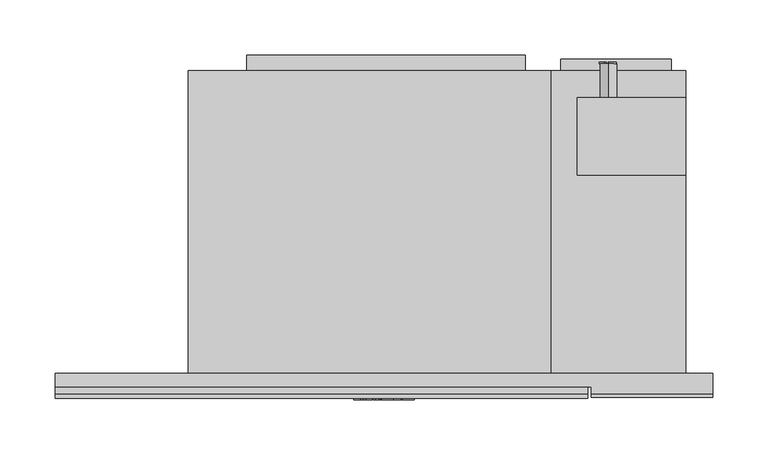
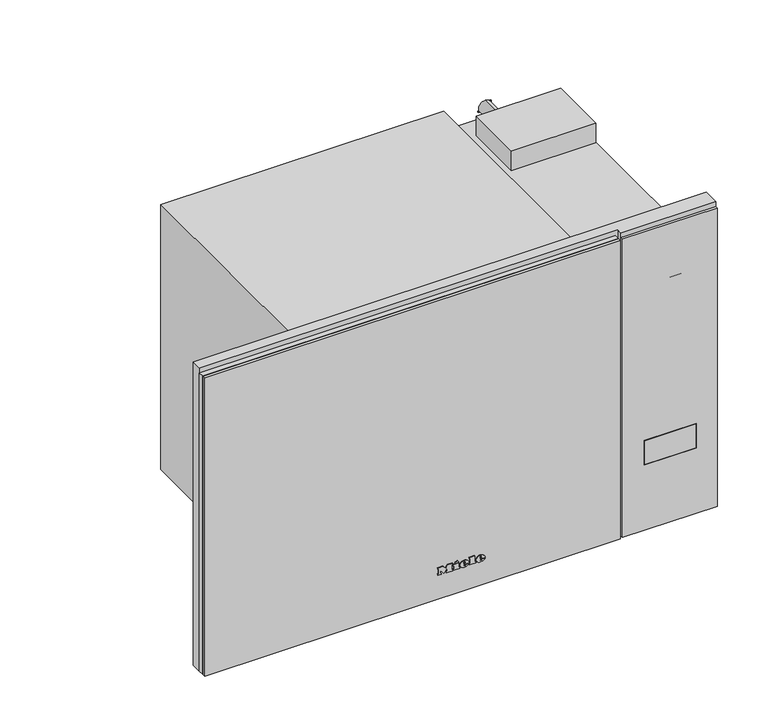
"""IFC4 building model written with IfcOpenShell, lengths in millimetres: proxy geometry, 11103460_D_M2234SC_OBSW : 24223420_D_11103460_M2234SC_OBSW."""

from ifc_helpers import new_model, si_unit, point, frame, frame_2d, origin, origin_with_axes, place, context, project, spatial, polyline, circle_curve, ellipse_curve, trimmed, segment, composite_curve, outline, extrude, faceted_brep, source, transform, mapped, element, save
from ifc_brep_helpers import plane_surface, cylinder_surface, revolved_surface, extruded_surface, advanced_brep


def specialty_equipment_cf71ed80(model_context):
    return source(origin(), model_context, "Body", "SolidModel", [
        advanced_brep(
        [(21.28, -24.0, 26.633), (21.28, -24.0, 27.542), (27.301, -24.0, 27.542), (16.825, -24.0, 27.542), (19.3, -24.0, 24.5), (27.148, -24.0, 26.633), (24.43, -24.0, 26.633), (22.288, -24.0, 25.625), (21.28, -24.0, 28.694), (21.28, -24.0, 29.675), (22.819, -24.0, 29.675), (22.819, -24.0, 28.694), (21.28, -23.0, 26.633), (22.288, -23.0, 25.625), (24.43, -23.0, 26.633), (27.148, -23.0, 26.633), (19.3, -23.0, 24.5), (16.825, -23.0, 27.542), (27.301, -23.0, 27.542), (21.28, -23.0, 27.542), (21.28, -23.0, 28.694), (22.819, -23.0, 28.694), (22.819, -23.0, 29.675), (21.28, -23.0, 29.675)],
        [
            (0, 1),
            (1, 2),
            (2, 3, ellipse_curve(frame((22.063, -24.0, 27.542), z_axis=(0.0, -1.0, 0.0), x_axis=(-1.0, 0.0, 0.0)), 5.238, 4.329)),
            (3, 4, circle_curve(frame((20.3080491, -24.0, 27.848), z_axis=(0.0, -1.0, 0.0), x_axis=(0.0, 0.0, -1.0)), 3.4964649)),
            (4, 5, circle_curve(frame((21.9581428, -24.0, 30.224), z_axis=(0.0, -1.0, 0.0), x_axis=(0.0, 0.0, -1.0)), 6.3110933)),
            (5, 6),
            (6, 7, circle_curve(frame((22.7279412, -24.0, 27.47), z_axis=(0.0, 1.0, 0.0), x_axis=(0.0, 0.0, -1.0)), 1.896727)),
            (7, 0, circle_curve(frame((22.288, -24.0, 26.633), z_axis=(0.0, 1.0, 0.0), x_axis=(0.0, 0.0, -1.0)), 1.008)),
            (8, 9),
            (9, 10, circle_curve(frame((22.0495, -24.0, 29.675), z_axis=(0.0, 1.0, 0.0), x_axis=(0.0, 0.0, -1.0)), 0.7695)),
            (10, 11),
            (11, 8),
            (12, 13, circle_curve(frame((22.288, -23.0, 26.633), z_axis=(0.0, -1.0, 0.0), x_axis=(0.0, 0.0, -1.0)), 1.008)),
            (13, 14, circle_curve(frame((22.7279412, -23.0, 27.47), z_axis=(0.0, -1.0, 0.0), x_axis=(0.0, 0.0, -1.0)), 1.896727)),
            (14, 15),
            (15, 16, circle_curve(frame((21.9581428, -23.0, 30.224), z_axis=(0.0, 1.0, 0.0), x_axis=(0.0, 0.0, -1.0)), 6.3110933)),
            (16, 17, circle_curve(frame((20.3080491, -23.0, 27.848), z_axis=(0.0, 1.0, 0.0), x_axis=(0.0, 0.0, -1.0)), 3.4964649)),
            (17, 18, ellipse_curve(frame((22.063, -23.0, 27.542), z_axis=(0.0, 1.0, 0.0), x_axis=(-1.0, 0.0, 0.0)), 5.238, 4.329)),
            (18, 19),
            (19, 12),
            (20, 21),
            (21, 22),
            (22, 23, circle_curve(frame((22.0495, -23.0, 29.675), z_axis=(0.0, -1.0, 0.0), x_axis=(0.0, 0.0, -1.0)), 0.7695)),
            (23, 20),
            (0, 12),
            (19, 1),
            (18, 2),
            (5, 15),
            (14, 6),
            (17, 3),
            (13, 7),
            (16, 4),
            (8, 20),
            (23, 9),
            (22, 10),
            (21, 11),
        ],
        [
            plane_surface(frame((21.28, -24.0, 27.542), z_axis=(0.0, -1.0, 0.0), x_axis=(0.0, 0.0, 1.0))),
            plane_surface(frame((21.28, -23.0, 27.542), z_axis=(0.0, 1.0, 0.0), x_axis=(0.0, 0.0, -1.0))),
            plane_surface(frame((21.28, -24.0, 26.633), z_axis=(1.0, 0.0, 0.0), x_axis=(0.0, 1.0, 0.0))),
            plane_surface(frame((21.28, -24.0, 27.542), z_axis=(0.0, 0.0, -1.0), x_axis=(0.0, 1.0, 0.0))),
            plane_surface(frame((27.148, -24.0, 26.633), z_axis=(0.0, 0.0, 1.0), x_axis=(0.0, 1.0, 0.0))),
            extruded_surface(trimmed(ellipse_curve(frame((22.063, -22.0, 27.542), z_axis=(0.0, -1.0, 0.0), x_axis=(-1.0, 0.0, 0.0)), 5.238, 4.329), [point((27.301, -22.0, 27.542))], [point((16.825, -22.0, 27.542))], True, "CARTESIAN"), (0.0, -1.0, 0.0), 1.0),
            revolved_surface(polyline([(22.7279412, -23.0, 25.573273), (22.7279412, -24.0, 25.573273)]), (22.7279412, -23.0, 27.47), (0.0, 1.0, 0.0)),
            revolved_surface(polyline([(22.288, -23.0, 25.625), (22.288, -24.0, 25.625)]), (22.288, -23.0, 26.633), (0.0, 1.0, 0.0)),
            cylinder_surface(frame((20.3080491, -23.0, 27.848), z_axis=(0.0, -1.0, 0.0), x_axis=(0.0, 0.0, -1.0)), 3.4964649),
            cylinder_surface(frame((21.9581428, -23.0, 30.224), z_axis=(0.0, -1.0, 0.0), x_axis=(0.0, 0.0, -1.0)), 6.3110933),
            plane_surface(frame((21.28, -24.0, 28.694), z_axis=(1.0, 0.0, 0.0), x_axis=(0.0, 1.0, 0.0))),
            revolved_surface(polyline([(22.0495, -23.0, 28.9055), (22.0495, -24.0, 28.9055)]), (22.0495, -23.0, 29.675), (0.0, 1.0, 0.0)),
            plane_surface(frame((22.819, -24.0, 29.675), z_axis=(-1.0, 0.0, 0.0), x_axis=(0.0, 1.0, 0.0))),
            plane_surface(frame((22.819, -24.0, 28.694), z_axis=(0.0, 0.0, 1.0), x_axis=(0.0, 1.0, 0.0))),
        ],
        [
            (0, [[1, 2, 3, 4, 5, 6, 7, 8], [9, 10, 11, 12]]),
            (1, [[13, 14, 15, 16, 17, 18, 19, 20], [21, 22, 23, 24]]),
            (2, [[-1, 25, -20, 26]]),
            (3, [[-2, -26, -19, 27]]),
            (4, [[-6, 28, -15, 29]]),
            (5, [[-3, -27, -18, 30]]),
            (6, [[-7, -29, -14, 31]]),
            (7, [[-8, -31, -13, -25]]),
            (8, [[-4, -30, -17, 32]]),
            (9, [[-5, -32, -16, -28]]),
            (10, [[-9, 33, -24, 34]]),
            (11, [[-10, -34, -23, 35]]),
            (12, [[-11, -35, -22, 36]]),
            (13, [[-12, -36, -21, -33]]),
        ],
    ),
        advanced_brep(
        [(2.497, -24.0, 26.633), (2.497, -24.0, 27.542), (8.518, -24.0, 27.542), (-1.958, -24.0, 27.542), (0.517, -24.0, 24.5), (8.365, -24.0, 26.633), (5.647, -24.0, 26.633), (3.505, -24.0, 25.625), (2.497, -24.0, 28.694), (2.497, -24.0, 29.675), (4.036, -24.0, 29.675), (4.036, -24.0, 28.694), (2.497, -23.0, 26.633), (3.505, -23.0, 25.625), (5.647, -23.0, 26.633), (8.365, -23.0, 26.633), (0.517, -23.0, 24.5), (-1.958, -23.0, 27.542), (8.518, -23.0, 27.542), (2.497, -23.0, 27.542), (2.497, -23.0, 28.694), (4.036, -23.0, 28.694), (4.036, -23.0, 29.675), (2.497, -23.0, 29.675)],
        [
            (0, 1),
            (1, 2),
            (2, 3, ellipse_curve(frame((3.28, -24.0, 27.542), z_axis=(0.0, -1.0, 0.0), x_axis=(-1.0, 0.0, 0.0)), 5.238, 4.329)),
            (3, 4, circle_curve(frame((1.5250491, -24.0, 27.848), z_axis=(0.0, -1.0, 0.0), x_axis=(0.0, 0.0, -1.0)), 3.4964649)),
            (4, 5, circle_curve(frame((3.1751428, -24.0, 30.224), z_axis=(0.0, -1.0, 0.0), x_axis=(0.0, 0.0, -1.0)), 6.3110933)),
            (5, 6),
            (6, 7, circle_curve(frame((3.9449412, -24.0, 27.47), z_axis=(0.0, 1.0, 0.0), x_axis=(0.0, 0.0, -1.0)), 1.896727)),
            (7, 0, circle_curve(frame((3.505, -24.0, 26.633), z_axis=(0.0, 1.0, 0.0), x_axis=(0.0, 0.0, -1.0)), 1.008)),
            (8, 9),
            (9, 10, circle_curve(frame((3.2665, -24.0, 29.675), z_axis=(0.0, 1.0, 0.0), x_axis=(0.0, 0.0, -1.0)), 0.7695)),
            (10, 11),
            (11, 8),
            (12, 13, circle_curve(frame((3.505, -23.0, 26.633), z_axis=(0.0, -1.0, 0.0), x_axis=(0.0, 0.0, -1.0)), 1.008)),
            (13, 14, circle_curve(frame((3.9449412, -23.0, 27.47), z_axis=(0.0, -1.0, 0.0), x_axis=(0.0, 0.0, -1.0)), 1.896727)),
            (14, 15),
            (15, 16, circle_curve(frame((3.1751428, -23.0, 30.224), z_axis=(0.0, 1.0, 0.0), x_axis=(0.0, 0.0, -1.0)), 6.3110933)),
            (16, 17, circle_curve(frame((1.5250491, -23.0, 27.848), z_axis=(0.0, 1.0, 0.0), x_axis=(0.0, 0.0, -1.0)), 3.4964649)),
            (17, 18, ellipse_curve(frame((3.28, -23.0, 27.542), z_axis=(0.0, 1.0, 0.0), x_axis=(-1.0, 0.0, 0.0)), 5.238, 4.329)),
            (18, 19),
            (19, 12),
            (20, 21),
            (21, 22),
            (22, 23, circle_curve(frame((3.2665, -23.0, 29.675), z_axis=(0.0, -1.0, 0.0), x_axis=(0.0, 0.0, -1.0)), 0.7695)),
            (23, 20),
            (0, 12),
            (19, 1),
            (18, 2),
            (5, 15),
            (14, 6),
            (17, 3),
            (13, 7),
            (16, 4),
            (8, 20),
            (23, 9),
            (22, 10),
            (21, 11),
        ],
        [
            plane_surface(frame((2.497, -24.0, 27.542), z_axis=(0.0, -1.0, 0.0), x_axis=(0.0, 0.0, 1.0))),
            plane_surface(frame((2.497, -23.0, 27.542), z_axis=(0.0, 1.0, 0.0), x_axis=(0.0, 0.0, -1.0))),
            plane_surface(frame((2.497, -24.0, 26.633), z_axis=(1.0, 0.0, 0.0), x_axis=(0.0, 1.0, 0.0))),
            plane_surface(frame((2.497, -24.0, 27.542), z_axis=(0.0, 0.0, -1.0), x_axis=(0.0, 1.0, 0.0))),
            plane_surface(frame((8.365, -24.0, 26.633), z_axis=(0.0, 0.0, 1.0), x_axis=(0.0, 1.0, 0.0))),
            extruded_surface(trimmed(ellipse_curve(frame((3.28, -22.0, 27.542), z_axis=(0.0, -1.0, 0.0), x_axis=(-1.0, 0.0, 0.0)), 5.238, 4.329), [point((8.518, -22.0, 27.542))], [point((-1.958, -22.0, 27.542))], True, "CARTESIAN"), (0.0, -1.0, 0.0), 1.0),
            revolved_surface(polyline([(3.9449412, -23.0, 25.573273), (3.9449412, -24.0, 25.573273)]), (3.9449412, -23.0, 27.47), (0.0, 1.0, 0.0)),
            revolved_surface(polyline([(3.505, -23.0, 25.625), (3.505, -24.0, 25.625)]), (3.505, -23.0, 26.633), (0.0, 1.0, 0.0)),
            cylinder_surface(frame((1.5250491, -23.0, 27.848), z_axis=(0.0, -1.0, 0.0), x_axis=(0.0, 0.0, -1.0)), 3.4964649),
            cylinder_surface(frame((3.1751428, -23.0, 30.224), z_axis=(0.0, -1.0, 0.0), x_axis=(0.0, 0.0, -1.0)), 6.3110933),
            plane_surface(frame((2.497, -24.0, 28.694), z_axis=(1.0, 0.0, 0.0), x_axis=(0.0, 1.0, 0.0))),
            revolved_surface(polyline([(3.2665, -23.0, 28.9055), (3.2665, -24.0, 28.9055)]), (3.2665, -23.0, 29.675), (0.0, 1.0, 0.0)),
            plane_surface(frame((4.036, -24.0, 29.675), z_axis=(-1.0, 0.0, 0.0), x_axis=(0.0, 1.0, 0.0))),
            plane_surface(frame((4.036, -24.0, 28.694), z_axis=(0.0, 0.0, 1.0), x_axis=(0.0, 1.0, 0.0))),
        ],
        [
            (0, [[1, 2, 3, 4, 5, 6, 7, 8], [9, 10, 11, 12]]),
            (1, [[13, 14, 15, 16, 17, 18, 19, 20], [21, 22, 23, 24]]),
            (2, [[-1, 25, -20, 26]]),
            (3, [[-2, -26, -19, 27]]),
            (4, [[-6, 28, -15, 29]]),
            (5, [[-3, -27, -18, 30]]),
            (6, [[-7, -29, -14, 31]]),
            (7, [[-8, -31, -13, -25]]),
            (8, [[-4, -30, -17, 32]]),
            (9, [[-5, -32, -16, -28]]),
            (10, [[-9, 33, -24, 34]]),
            (11, [[-10, -34, -23, 35]]),
            (12, [[-11, -35, -22, 36]]),
            (13, [[-12, -36, -21, -33]]),
        ],
    ),
        extrude(outline(polyline([(32.969, -7.34), (31.511, -6.656), (32.933, -3.605), (34.391, -4.28), (32.969, -7.34)])), frame((0.0, -24.0, 0.0), z_axis=(0.0, 1.0, 0.0), x_axis=(0.0, 0.0, 1.0)), (0.0, 0.0, 1.0), 1.0),
        extrude(outline(polyline([(31.313, -9.563), (29.702, -9.563), (29.702, -8.492), (26.012, -8.492), (26.012, -9.563), (24.5, -9.563), (24.5, -2.462), (26.012, -2.462), (26.012, -3.506), (31.313, -3.506), (31.313, -9.563)])), frame((0.0, -24.0, 0.0), z_axis=(0.0, 1.0, 0.0), x_axis=(0.0, 0.0, 1.0)), (0.0, 0.0, 1.0), 1.0),
        extrude(outline(polyline([(32.033, 9.022), (32.033, 10.102), (26.012, 10.102), (26.012, 9.022), (24.5, 9.022), (24.5, 16.321), (26.012, 16.321), (26.012, 15.214), (33.5, 15.214), (33.5, 9.022), (32.033, 9.022)])), frame((0.0, -24.0, 0.0), z_axis=(0.0, 1.0, 0.0), x_axis=(0.0, 0.0, 1.0)), (0.0, 0.0, 1.0), 1.0),
        extrude(outline(polyline([(32.033, -27.5), (32.033, -26.411), (26.012, -26.411), (26.012, -27.5), (24.5, -27.5), (24.5, -23.54), (26.012, -23.54), (26.012, -24.62), (29.8341247, -24.62), (24.5, -20.597), (29.9402223, -16.556), (26.012, -16.556), (26.012, -17.663), (24.5, -17.663), (24.5, -10.481), (26.012, -10.481), (26.012, -11.624), (32.033, -11.624), (32.033, -10.481), (33.5, -10.481), (33.5, -15.962), (30.125, -18.59), (33.5, -21.227), (33.5, -27.5), (32.033, -27.5)])), frame((0.0, -24.0, 0.0), z_axis=(0.0, 1.0, 0.0), x_axis=(0.0, 0.0, 1.0)), (0.0, 0.0, 1.0), 1.0),
        extrude(outline(polyline([(360.5, 297.5), (360.5, 187.5), (-5.5, 187.5), (-5.5, 297.5), (360.5, 297.5)]), holes=[polyline([(104.5, 273.0), (74.5, 273.0), (74.5, 213.0), (104.5, 213.0), (104.5, 273.0)])]), frame((0.0, -22.0, 0.0), z_axis=(0.0, 1.0, 0.0), x_axis=(0.0, 0.0, 1.0)), (0.0, 0.0, 1.0), 3.0),
        extrude(outline(polyline([(213.0, -21.8), (271.0, -21.8), (271.0, -22.1), (213.0, -22.1), (213.0, -21.8)])), frame((0.0, 0.0, 270.0), z_axis=(0.0, 0.0, 1.0), x_axis=(1.0, 0.0, 0.0)), (0.0, 0.0, 1.0), 25.0),
        extrude(outline(polyline([(213.5, -19.0), (272.5, -19.0), (272.5, -22.0), (213.5, -22.0), (213.5, -19.0)])), frame((0.0, 0.0, 75.0), z_axis=(0.0, 0.0, 1.0), x_axis=(1.0, 0.0, 0.0)), (0.0, 0.0, 1.0), 29.0),
        extrude(outline(polyline([(360.5, -297.5), (-5.5, -297.5), (-5.5, 184.5), (360.5, 184.5), (360.5, -297.5)]), holes=[polyline([(303.5, -165.0), (303.5, 180.0), (51.5, 180.0), (51.5, -165.0), (303.5, -165.0)])]), frame((0.0, -19.0, 0.0), z_axis=(0.0, 1.0, 0.0), x_axis=(0.0, 0.0, 1.0)), (0.0, 0.0, 1.0), 6.5),
        extrude(outline(polyline([(-165.0, 7.0), (180.0, 7.0), (180.0, -19.0), (-165.0, -19.0), (-165.0, 7.0)])), frame((0.0, 0.0, 51.5), z_axis=(0.0, 0.0, 1.0), x_axis=(1.0, 0.0, 0.0)), (0.0, 0.0, 1.0), 252.0),
        extrude(outline(polyline([(-297.5, -19.0), (184.5, -19.0), (184.5, -23.0), (-297.5, -23.0), (-297.5, -19.0)])), frame((0.0, 0.0, -5.5), z_axis=(0.0, 0.0, 1.0), x_axis=(1.0, 0.0, 0.0)), (0.0, 0.0, 1.0), 366.0),
        extrude(outline(polyline([(339.5536781, 203.1660444), (338.2952065, 203.1660444), (338.2952065, 209.1269959), (335.3028248, 209.1269959), (335.3028248, 203.4835385), (334.0487231, 203.4835385), (334.0487231, 209.1269959), (330.7630117, 209.1269959), (330.7630117, 203.0), (329.5, 203.0), (329.5, 210.3757838), (339.5536781, 210.3757838), (339.5536781, 203.1660444)])), frame((0.0, 280.5, 0.0), z_axis=(0.0, 1.0, 0.0), x_axis=(0.0, 0.0, 1.0)), (0.0, 0.0, 1.0), 1.0),
        extrude(outline(polyline([(339.5536781, 199.8530432), (330.7543004, 199.8530432), (330.7543004, 194.8378502), (329.5, 194.8378502), (329.5, 201.1246692), (339.5536781, 201.1246692), (339.5536781, 199.8530432)])), frame((0.0, 280.5, 0.0), z_axis=(0.0, 1.0, 0.0), x_axis=(0.0, 0.0, 1.0)), (0.0, 0.0, 1.0), 1.0),
        extrude(outline(composite_curve([segment(trimmed(circle_curve(frame_2d((334.5, 203.0)), 7.5), [point((327.0, 203.0))], [point((342.0, 203.0))], False, "CARTESIAN"), True, "CONTINUOUS"), segment(trimmed(circle_curve(frame_2d((334.5, 203.0)), 7.5), [point((342.0, 203.0))], [point((327.0, 203.0))], False, "CARTESIAN"), True, "CONTINUOUS")], self_intersect=False)), frame((0.0, 249.5, 0.0), z_axis=(0.0, 1.0, 0.0), x_axis=(0.0, 0.0, 1.0)), (0.0, 0.0, 1.0), 31.0),
        extrude(outline(polyline([(70.0, 176.0), (70.0, 96.0), (-10.0, 96.0), (-10.0, 176.0), (70.0, 176.0)])), frame((0.0, 0.0, 14.0), z_axis=(0.0, 0.0, 1.0), x_axis=(1.0, 0.0, 0.0)), (0.0, 0.0, 1.0), 12.0),
        extrude(outline(polyline([(-114.0, 235.25), (-114.0, 222.75), (-142.0, 222.75), (-142.0, 235.25), (-114.0, 235.25)])), origin_with_axes(), (0.0, 0.0, 1.0), 22.0),
        extrude(outline(polyline([(235.0, 235.25), (235.0, 222.75), (207.0, 222.75), (207.0, 235.25), (235.0, 235.25)])), origin_with_axes(), (0.0, 0.0, 1.0), 22.0),
        extrude(outline(polyline([(235.0, 55.25), (235.0, 42.75), (207.0, 42.75), (207.0, 55.25), (235.0, 55.25)])), origin_with_axes(), (0.0, 0.0, 1.0), 22.0),
        extrude(outline(polyline([(-114.0, 55.25), (-114.0, 42.75), (-142.0, 42.75), (-142.0, 55.25), (-114.0, 55.25)])), origin_with_axes(), (0.0, 0.0, 1.0), 22.0),
        extrude(outline(composite_curve([segment(trimmed(circle_curve(frame_2d((-128.0, 229.0)), 18.5), [point((-109.5, 229.0))], [point((-146.5, 229.0))], False, "CARTESIAN"), True, "CONTINUOUS"), segment(trimmed(circle_curve(frame_2d((-128.0, 229.0)), 18.5), [point((-146.5, 229.0))], [point((-109.5, 229.0))], False, "CARTESIAN"), True, "CONTINUOUS")], self_intersect=False)), frame((0.0, 0.0, 22.0), z_axis=(0.0, 0.0, 1.0), x_axis=(1.0, 0.0, 0.0)), (0.0, 0.0, 1.0), 4.0),
        extrude(outline(composite_curve([segment(trimmed(circle_curve(frame_2d((221.0, 229.0)), 18.5), [point((239.5, 229.0))], [point((202.5, 229.0))], False, "CARTESIAN"), True, "CONTINUOUS"), segment(trimmed(circle_curve(frame_2d((221.0, 229.0)), 18.5), [point((202.5, 229.0))], [point((239.5, 229.0))], False, "CARTESIAN"), True, "CONTINUOUS")], self_intersect=False)), frame((0.0, 0.0, 22.0), z_axis=(0.0, 0.0, 1.0), x_axis=(1.0, 0.0, 0.0)), (0.0, 0.0, 1.0), 4.0),
        extrude(outline(composite_curve([segment(trimmed(circle_curve(frame_2d((-128.0, 49.0)), 18.5), [point((-109.5, 49.0))], [point((-146.5, 49.0))], False, "CARTESIAN"), True, "CONTINUOUS"), segment(trimmed(circle_curve(frame_2d((-128.0, 49.0)), 18.5), [point((-146.5, 49.0))], [point((-109.5, 49.0))], False, "CARTESIAN"), True, "CONTINUOUS")], self_intersect=False)), frame((0.0, 0.0, 22.0), z_axis=(0.0, 0.0, 1.0), x_axis=(1.0, 0.0, 0.0)), (0.0, 0.0, 1.0), 4.0),
        extrude(outline(composite_curve([segment(trimmed(circle_curve(frame_2d((221.0, 49.0)), 18.5), [point((239.5, 49.0))], [point((202.5, 49.0))], False, "CARTESIAN"), True, "CONTINUOUS"), segment(trimmed(circle_curve(frame_2d((221.0, 49.0)), 18.5), [point((202.5, 49.0))], [point((239.5, 49.0))], False, "CARTESIAN"), True, "CONTINUOUS")], self_intersect=False)), frame((0.0, 0.0, 22.0), z_axis=(0.0, 0.0, 1.0), x_axis=(1.0, 0.0, 0.0)), (0.0, 0.0, 1.0), 4.0),
        extrude(outline(polyline([(160.0, 284.5), (260.0, 284.5), (260.0, 274.0), (160.0, 274.0), (160.0, 284.5)])), frame((0.0, 0.0, 62.0), z_axis=(0.0, 0.0, 1.0), x_axis=(1.0, 0.0, 0.0)), (0.0, 0.0, 1.0), 245.0),
        extrude(outline(polyline([(-124.0, 288.0), (128.0, 288.0), (128.0, 274.0), (-124.0, 274.0), (-124.0, 288.0)])), frame((0.0, 0.0, 81.0), z_axis=(0.0, 0.0, 1.0), x_axis=(1.0, 0.0, 0.0)), (0.0, 0.0, 1.0), 183.0),
        extrude(outline(polyline([(175.0, 249.5), (273.0, 249.5), (273.0, 179.5), (175.0, 179.5), (175.0, 249.5)])), frame((0.0, 0.0, 327.0), z_axis=(0.0, 0.0, 1.0), x_axis=(1.0, 0.0, 0.0)), (0.0, 0.0, 1.0), 24.0),
        faceted_brep([(273.0, 274.0, 26.0), (-177.0, 274.0, 26.0), (-177.0, 274.0, 351.0), (151.0, 274.0, 351.0), (151.0, 274.0, 327.0), (273.0, 274.0, 327.0), (-177.0, 0.0, 351.0), (-177.0, 0.0, 26.0), (273.0, 0.0, 26.0), (273.0, 0.0, 327.0), (151.0, 0.0, 327.0), (151.0, 0.0, 351.0), (183.0, 0.0, 317.5), (183.0, 0.0, 41.5), (-170.0, 0.0, 41.5), (-170.0, 0.0, 317.5), (183.0, 2.0, 317.5), (-170.0, 2.0, 317.5), (-170.0, 2.0, 41.5), (183.0, 2.0, 41.5), (144.0, 2.0, 278.5), (144.0, 2.0, 75.5), (-141.0, 2.0, 75.5), (-141.0, 2.0, 278.5), (144.0, 266.0, 278.5), (-141.0, 266.0, 278.5), (-141.0, 266.0, 75.5), (144.0, 266.0, 75.5)], [[[0, 1, 2, 3, 4, 5]], [[6, 7, 8, 9, 10, 11], [12, 13, 14, 15]], [[2, 6, 11, 3]], [[2, 1, 7, 6]], [[1, 0, 8, 7]], [[8, 0, 5, 9]], [[4, 10, 9, 5]], [[10, 4, 3, 11]], [[16, 17, 18, 19], [20, 21, 22, 23]], [[16, 19, 13, 12]], [[19, 18, 14, 13]], [[17, 16, 12, 15]], [[24, 25, 26, 27]], [[24, 27, 21, 20]], [[27, 26, 22, 21]], [[26, 25, 23, 22]], [[25, 24, 20, 23]], [[18, 17, 15, 14]]]),
        faceted_brep([(183.0, 0.0, 317.5), (183.0, 0.0, 41.5), (183.0, -12.5, 41.5), (183.0, -12.5, 317.5), (-170.0, 0.0, 41.5), (-170.0, -12.5, 41.5), (-170.0, 0.0, 317.5), (-170.0, -12.5, 317.5), (297.5, -19.0, -5.5), (297.5, -19.0, 366.5), (187.5, -19.0, 366.5), (187.5, -19.0, -5.5), (297.5, 0.0, 366.5), (297.5, 0.0, -5.5), (-297.5, 0.0, -5.5), (-297.5, 0.0, 366.5), (-297.5, -12.5, 366.5), (187.5, -12.5, 366.5), (-297.5, -12.5, -5.5), (187.5, -12.5, -5.5)], [[[0, 1, 2, 3]], [[1, 4, 5, 2]], [[4, 6, 7, 5]], [[6, 0, 3, 7]], [[8, 9, 10, 11]], [[12, 13, 14, 15], [1, 0, 6, 4]], [[12, 15, 16, 17, 10, 9]], [[15, 14, 18, 16]], [[14, 13, 8, 11, 19, 18]], [[9, 8, 13, 12]], [[19, 17, 16, 18], [3, 2, 5, 7]], [[17, 19, 11, 10]]]),
    ])


if __name__ == "__main__":
    model = new_model("IFC4")
    model_context = context("Model", 3, world=origin())
    ifc_project = project(units=[si_unit("LENGTHUNIT", "METRE", prefix="MILLI")], contexts=[model_context])
    site = spatial("IfcSite", under=ifc_project)
    building = spatial("IfcBuilding", under=site)
    placement = place(None, origin())
    specialty_equipment_shape = specialty_equipment_cf71ed80(model_context)
    element("IfcBuildingElementProxy", 1, Name="11103460_D_M2234SC_OBSW : 24223420_D_11103460_M2234SC_OBSW", ObjectType="11103460_D_M2234SC_OBSW : 24223420_D_11103460_M2234SC_OBSW", at=placement, inside=building, context=model_context, shape_type="MappedRepresentation", body=[
        mapped(specialty_equipment_shape, transform((0.0, 0.0, 0.0), x_axis=(1.0, 0.0, 0.0), y_axis=(0.0, 1.0, 0.0), z_axis=(0.0, 0.0, 1.0))),
    ])
    save(model, "model.ifc")
